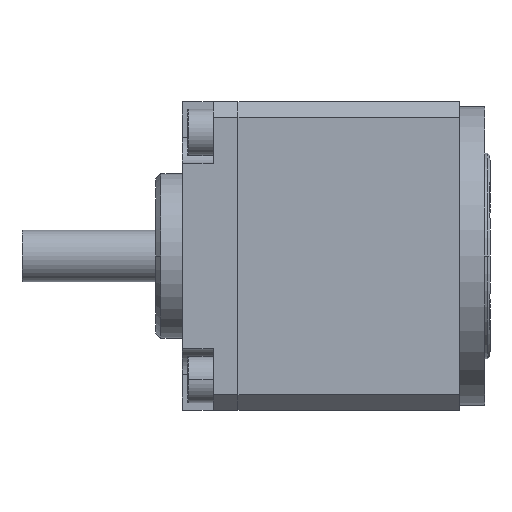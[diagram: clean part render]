
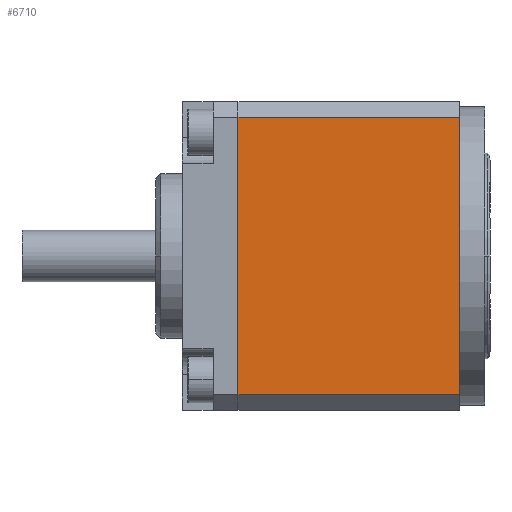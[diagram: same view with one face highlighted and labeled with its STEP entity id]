
A CAD part, front view. The second image highlights one B-rep face of the part: STEP entity #6710.
In plain terms, the highlighted planar face has unit normal (0, -1, 0).
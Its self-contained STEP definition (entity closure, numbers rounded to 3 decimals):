
#667 = CARTESIAN_POINT ( 'NONE',  ( 63.926, -15., -13.5 ) ) ;
#901 = ORIENTED_EDGE ( 'NONE', *, *, #2815, .T. ) ;
#2534 = DIRECTION ( 'NONE',  ( 0., 0., -1. ) ) ;
#2609 = DIRECTION ( 'NONE',  ( 0., 0., 1. ) ) ;
#2637 = CARTESIAN_POINT ( 'NONE',  ( 21.5, -15., -15. ) ) ;
#2815 = EDGE_CURVE ( 'NONE', #23657, #11040, #11082, .T. ) ;
#3070 = ORIENTED_EDGE ( 'NONE', *, *, #8348, .T. ) ;
#3117 = VECTOR ( 'NONE', #14196, 1000. ) ;
#6173 = LINE ( 'NONE', #14570, #20946 ) ;
#6710 = ADVANCED_FACE ( 'NONE', ( #20856 ), #10151, .T. ) ;
#8348 = EDGE_CURVE ( 'NONE', #22165, #23657, #8468, .T. ) ;
#8468 = LINE ( 'NONE', #667, #3117 ) ;
#8928 = DIRECTION ( 'NONE',  ( 0., 0., -1. ) ) ;
#9008 = DIRECTION ( 'NONE',  ( 0., -1., 0. ) ) ;
#9250 = CARTESIAN_POINT ( 'NONE',  ( 63.926, -15., -15. ) ) ;
#9890 = EDGE_CURVE ( 'NONE', #11040, #14164, #25618, .T. ) ;
#10151 = PLANE ( 'NONE',  #21013 ) ;
#10265 = VECTOR ( 'NONE', #20430, 1000. ) ;
#11040 = VERTEX_POINT ( 'NONE', #22961 ) ;
#11082 = LINE ( 'NONE', #2637, #15738 ) ;
#13191 = EDGE_LOOP ( 'NONE', ( #901, #18007, #18617, #3070 ) ) ;
#14164 = VERTEX_POINT ( 'NONE', #20154 ) ;
#14196 = DIRECTION ( 'NONE',  ( 1., 0., 0. ) ) ;
#14570 = CARTESIAN_POINT ( 'NONE',  ( 0., -15., -15. ) ) ;
#15738 = VECTOR ( 'NONE', #2609, 1000. ) ;
#16894 = EDGE_CURVE ( 'NONE', #14164, #22165, #6173, .T. ) ;
#18007 = ORIENTED_EDGE ( 'NONE', *, *, #9890, .T. ) ;
#18617 = ORIENTED_EDGE ( 'NONE', *, *, #16894, .T. ) ;
#20154 = CARTESIAN_POINT ( 'NONE',  ( 0., -15., 13.5 ) ) ;
#20430 = DIRECTION ( 'NONE',  ( -1., 0., 0. ) ) ;
#20856 = FACE_OUTER_BOUND ( 'NONE', #13191, .T. ) ;
#20946 = VECTOR ( 'NONE', #2534, 1000. ) ;
#21013 = AXIS2_PLACEMENT_3D ( 'NONE', #9250, #9008, #8928 ) ;
#22101 = CARTESIAN_POINT ( 'NONE',  ( 63.926, -15., 13.5 ) ) ;
#22165 = VERTEX_POINT ( 'NONE', #23671 ) ;
#22961 = CARTESIAN_POINT ( 'NONE',  ( 21.5, -15., 13.5 ) ) ;
#23657 = VERTEX_POINT ( 'NONE', #25531 ) ;
#23671 = CARTESIAN_POINT ( 'NONE',  ( 0., -15., -13.5 ) ) ;
#25531 = CARTESIAN_POINT ( 'NONE',  ( 21.5, -15., -13.5 ) ) ;
#25618 = LINE ( 'NONE', #22101, #10265 ) ;
